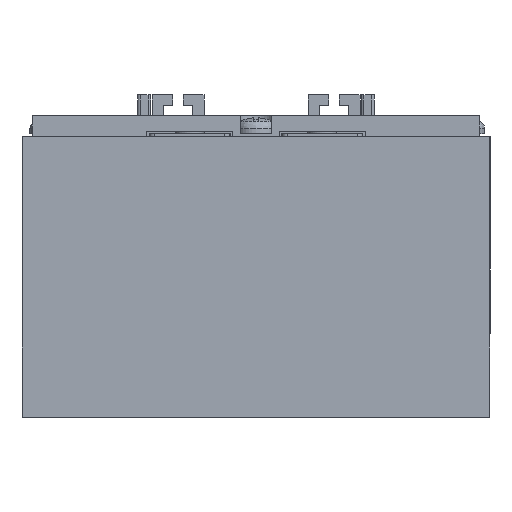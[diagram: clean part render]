
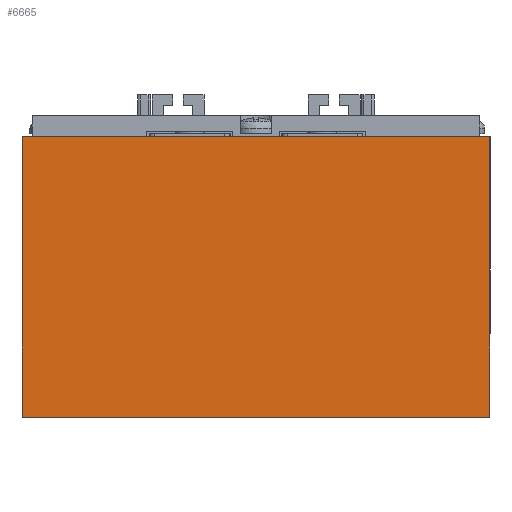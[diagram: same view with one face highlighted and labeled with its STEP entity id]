
A CAD part, left-side view. The second image highlights one B-rep face of the part: STEP entity #6665.
In plain terms, the highlighted planar face has unit normal (-1, 0, 0).
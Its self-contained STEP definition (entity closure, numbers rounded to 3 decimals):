
#520 = LINE ( 'NONE', #38010, #33320 ) ;
#3810 = EDGE_CURVE ( 'NONE', #19491, #12575, #520, .T. ) ;
#4957 = VECTOR ( 'NONE', #5112, 1000. ) ;
#5112 = DIRECTION ( 'NONE',  ( 0., 0., 1. ) ) ;
#6665 = ADVANCED_FACE ( 'NONE', ( #18216 ), #33679, .T. ) ;
#6806 = VERTEX_POINT ( 'NONE', #19085 ) ;
#7157 = DIRECTION ( 'NONE',  ( 0., 0., 1. ) ) ;
#9401 = EDGE_LOOP ( 'NONE', ( #21931, #34367, #36363, #10568 ) ) ;
#10568 = ORIENTED_EDGE ( 'NONE', *, *, #33387, .T. ) ;
#12433 = VECTOR ( 'NONE', #28847, 1000. ) ;
#12575 = VERTEX_POINT ( 'NONE', #26233 ) ;
#13407 = LINE ( 'NONE', #22239, #12433 ) ;
#15061 = DIRECTION ( 'NONE',  ( 0., -1., 0. ) ) ;
#15426 = CARTESIAN_POINT ( 'NONE',  ( -110.5, 45., 0. ) ) ;
#18216 = FACE_OUTER_BOUND ( 'NONE', #9401, .T. ) ;
#19085 = CARTESIAN_POINT ( 'NONE',  ( -110.5, 45., -54. ) ) ;
#19491 = VERTEX_POINT ( 'NONE', #24714 ) ;
#21388 = CARTESIAN_POINT ( 'NONE',  ( -110.5, 45., -54. ) ) ;
#21756 = AXIS2_PLACEMENT_3D ( 'NONE', #24510, #27345, #30681 ) ;
#21931 = ORIENTED_EDGE ( 'NONE', *, *, #3810, .T. ) ;
#22239 = CARTESIAN_POINT ( 'NONE',  ( -110.5, 0., 0. ) ) ;
#24175 = VERTEX_POINT ( 'NONE', #15426 ) ;
#24510 = CARTESIAN_POINT ( 'NONE',  ( -110.5, 45., -54. ) ) ;
#24714 = CARTESIAN_POINT ( 'NONE',  ( -110.5, -45., -54. ) ) ;
#26233 = CARTESIAN_POINT ( 'NONE',  ( -110.5, -45., 0. ) ) ;
#26401 = VECTOR ( 'NONE', #15061, 1000. ) ;
#26912 = LINE ( 'NONE', #21388, #26401 ) ;
#27345 = DIRECTION ( 'NONE',  ( -1., 0., 0. ) ) ;
#28796 = EDGE_CURVE ( 'NONE', #6806, #24175, #34855, .T. ) ;
#28847 = DIRECTION ( 'NONE',  ( 0., -1., 0. ) ) ;
#30681 = DIRECTION ( 'NONE',  ( 0., 0., 1. ) ) ;
#33320 = VECTOR ( 'NONE', #7157, 1000. ) ;
#33387 = EDGE_CURVE ( 'NONE', #6806, #19491, #26912, .T. ) ;
#33679 = PLANE ( 'NONE',  #21756 ) ;
#34367 = ORIENTED_EDGE ( 'NONE', *, *, #39924, .F. ) ;
#34855 = LINE ( 'NONE', #38941, #4957 ) ;
#36363 = ORIENTED_EDGE ( 'NONE', *, *, #28796, .F. ) ;
#38010 = CARTESIAN_POINT ( 'NONE',  ( -110.5, -45., -54. ) ) ;
#38941 = CARTESIAN_POINT ( 'NONE',  ( -110.5, 45., -54. ) ) ;
#39924 = EDGE_CURVE ( 'NONE', #24175, #12575, #13407, .T. ) ;
